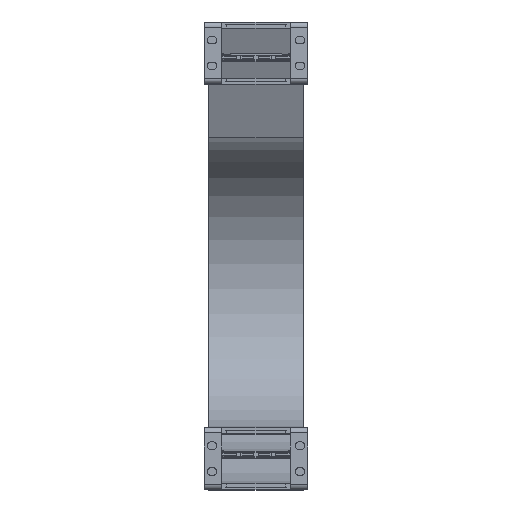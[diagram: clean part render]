
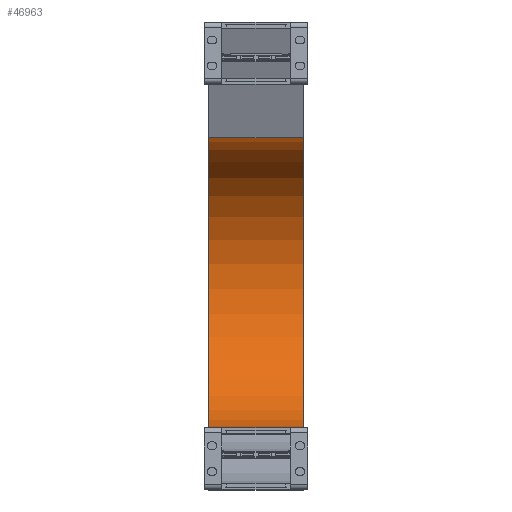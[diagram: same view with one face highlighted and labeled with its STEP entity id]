
A CAD part, top view. The second image highlights one B-rep face of the part: STEP entity #46963.
In plain terms, the highlighted cylindrical face has radius 84.5 mm (diameter 169 mm), a partial arc.
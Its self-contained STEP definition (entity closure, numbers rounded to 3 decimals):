
#46115=DIRECTION('',(-1.,0.,0.));
#46116=VECTOR('',#46115,55.);
#46117=CARTESIAN_POINT('',(27.5,36.,-400.));
#46118=LINE('',#46117,#46116);
#46129=DIRECTION('',(-1.,0.,0.));
#46130=VECTOR('',#46129,55.);
#46131=CARTESIAN_POINT('',(27.5,204.681,-407.334));
#46132=LINE('',#46131,#46130);
#46136=CARTESIAN_POINT('',(27.5,120.5,-400.));
#46137=DIRECTION('',(-1.,0.,0.));
#46138=DIRECTION('',(0.,0.996,-0.087));
#46139=AXIS2_PLACEMENT_3D('',#46136,#46137,#46138);
#46215=CARTESIAN_POINT('',(-27.5,120.5,-400.));
#46216=DIRECTION('',(-1.,0.,0.));
#46217=DIRECTION('',(0.,0.996,-0.087));
#46218=AXIS2_PLACEMENT_3D('',#46215,#46216,#46217);
#46337=CARTESIAN_POINT('',(27.5,204.681,-407.334));
#46338=CARTESIAN_POINT('',(-27.5,204.681,-407.334));
#46339=VERTEX_POINT('',#46337);
#46340=VERTEX_POINT('',#46338);
#46361=CARTESIAN_POINT('',(27.5,36.,-400.));
#46362=CARTESIAN_POINT('',(-27.5,36.,-400.));
#46363=VERTEX_POINT('',#46361);
#46364=VERTEX_POINT('',#46362);
#46949=CARTESIAN_POINT('',(1.,120.5,-400.));
#46950=DIRECTION('',(-1.,0.,0.));
#46951=DIRECTION('',(0.,-0.996,0.087));
#46952=AXIS2_PLACEMENT_3D('',#46949,#46950,#46951);
#46953=CYLINDRICAL_SURFACE('',#46952,84.5);
#46955=ORIENTED_EDGE('',*,*,#46954,.F.);
#46957=ORIENTED_EDGE('',*,*,#46956,.T.);
#46958=ORIENTED_EDGE('',*,*,#46932,.T.);
#46960=ORIENTED_EDGE('',*,*,#46959,.F.);
#46961=EDGE_LOOP('',(#46955,#46957,#46958,#46960));
#46962=FACE_OUTER_BOUND('',#46961,.F.);
#46140=CIRCLE('',#46139,84.5);
#46219=CIRCLE('',#46218,84.5);
#46932=EDGE_CURVE('',#46363,#46364,#46118,.T.);
#46954=EDGE_CURVE('',#46339,#46340,#46132,.T.);
#46956=EDGE_CURVE('',#46339,#46363,#46140,.T.);
#46959=EDGE_CURVE('',#46340,#46364,#46219,.T.);
#46963=ADVANCED_FACE('',(#46962),#46953,.F.);
